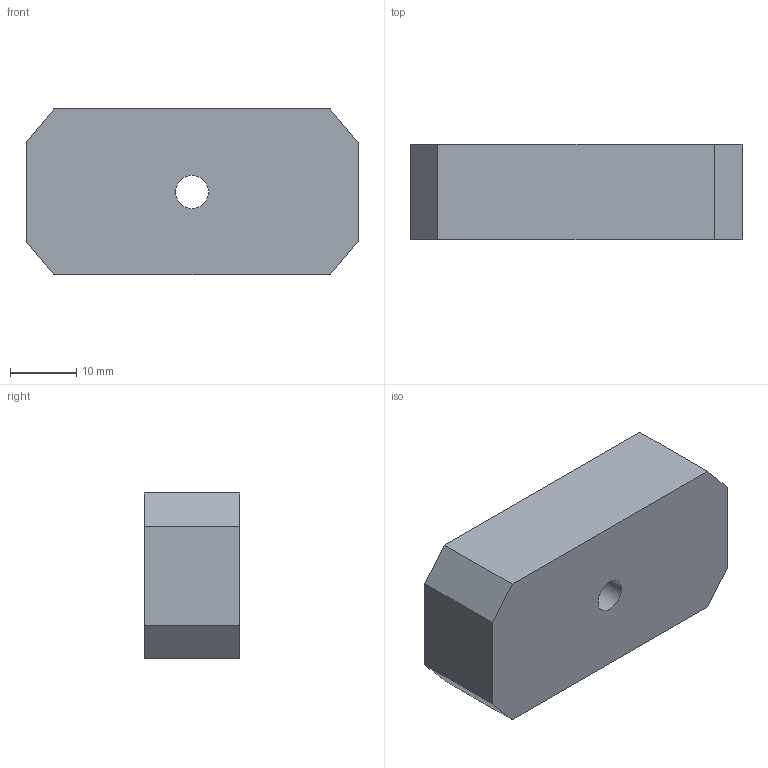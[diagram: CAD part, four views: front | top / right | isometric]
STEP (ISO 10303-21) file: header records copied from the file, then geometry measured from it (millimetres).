
FILE_DESCRIPTION(/* description */ ('Katalogmodell Elobau'),/* implementation_level */ '2;1');
FILE_NAME(/* name */ '301650_B.stp',/* time_stamp */ '2014-06-25T17:16:53+02:00',/* author */ ('Elobau GmbH & Co. KG'),/* organization */ ('Elobau GmbH & Co. KG'),/* preprocessor_version */ 'ST-DEVELOPER v15',/* originating_system */ 'SIEMENS PLM Software NX 8.5',/* authorisation */ '');
FILE_SCHEMA (('AUTOMOTIVE_DESIGN { 1 0 10303 214 3 1 1 1 }'));
Length unit declared in the file: millimetre
Products named in the file (1): 301650_B
Bounding box: 50 x 14.4 x 25 mm (x, y, z)
Volume: 17073.3 mm3; surface area: 4596.1 mm2
Topology: 1 solids, 1 shells, 12 faces, 30 edges, 20 vertices
Faces by surface type: plane 10, cylinder 1, cone 1
Full cylindrical faces by diameter (mm): 5 x1
Entity records: 366 total; most frequent: CARTESIAN_POINT 59, DIRECTION 56, ORIENTED_EDGE 54, EDGE_CURVE 27, LINE 24, VECTOR 24, VERTEX_POINT 19, EDGE_LOOP 16
